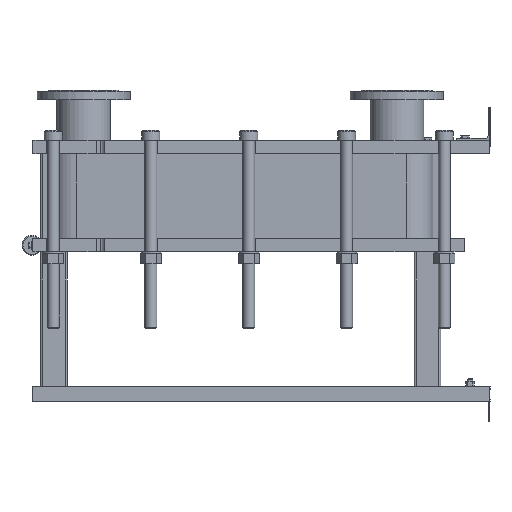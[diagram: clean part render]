
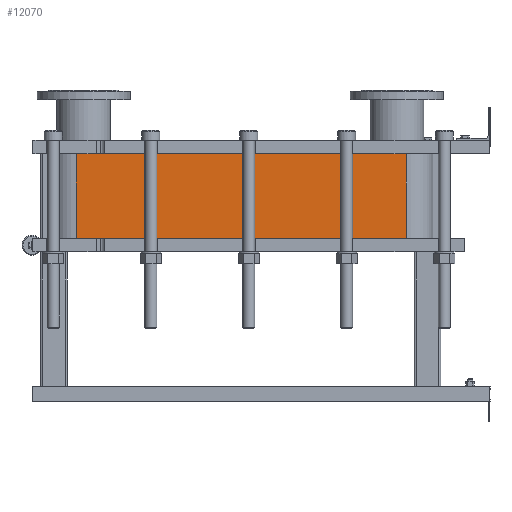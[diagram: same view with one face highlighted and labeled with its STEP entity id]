
A CAD part, left-side view. The second image highlights one B-rep face of the part: STEP entity #12070.
In plain terms, the highlighted planar face has unit normal (-1, 0, 0).
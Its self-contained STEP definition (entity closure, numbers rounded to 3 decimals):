
#1064=LINE('',#21140,#2164);
#1065=LINE('',#21144,#2165);
#1066=LINE('',#21146,#2166);
#1067=LINE('',#21147,#2167);
#2164=VECTOR('',#15790,10.);
#2165=VECTOR('',#15795,10.);
#2166=VECTOR('',#15796,10.);
#2167=VECTOR('',#15797,10.);
#3304=FACE_OUTER_BOUND('',#4091,.T.);
#4091=EDGE_LOOP('',(#9793,#9794,#9795,#9796));
#5677=VERTEX_POINT('',#21137);
#5678=VERTEX_POINT('',#21139);
#5679=VERTEX_POINT('',#21143);
#5680=VERTEX_POINT('',#21145);
#7118=EDGE_CURVE('',#5678,#5677,#1064,.T.);
#7120=EDGE_CURVE('',#5677,#5679,#1065,.T.);
#7121=EDGE_CURVE('',#5680,#5679,#1066,.T.);
#7122=EDGE_CURVE('',#5680,#5678,#1067,.T.);
#9793=ORIENTED_EDGE('',*,*,#7120,.T.);
#9794=ORIENTED_EDGE('',*,*,#7121,.F.);
#9795=ORIENTED_EDGE('',*,*,#7122,.T.);
#9796=ORIENTED_EDGE('',*,*,#7118,.T.);
#11441=PLANE('',#13191);
#12070=ADVANCED_FACE('',(#3304),#11441,.T.);
#13191=AXIS2_PLACEMENT_3D('',#21142,#15793,#15794);
#15790=DIRECTION('',(0.,0.,-1.));
#15793=DIRECTION('center_axis',(-1.,0.,0.));
#15794=DIRECTION('ref_axis',(0.,1.,0.));
#15795=DIRECTION('',(0.,-1.,0.));
#15796=DIRECTION('',(0.,0.,-1.));
#15797=DIRECTION('',(0.,1.,0.));
#21137=CARTESIAN_POINT('',(-248.152,1243.818,-255.3));
#21139=CARTESIAN_POINT('',(-248.152,1243.818,0.));
#21140=CARTESIAN_POINT('',(-248.152,1243.818,0.));
#21142=CARTESIAN_POINT('Origin',(-248.152,251.818,0.));
#21143=CARTESIAN_POINT('',(-248.152,251.818,-255.3));
#21144=CARTESIAN_POINT('',(-248.152,499.818,-255.3));
#21145=CARTESIAN_POINT('',(-248.152,251.818,0.));
#21146=CARTESIAN_POINT('',(-248.152,251.818,0.));
#21147=CARTESIAN_POINT('',(-248.152,251.818,0.));
